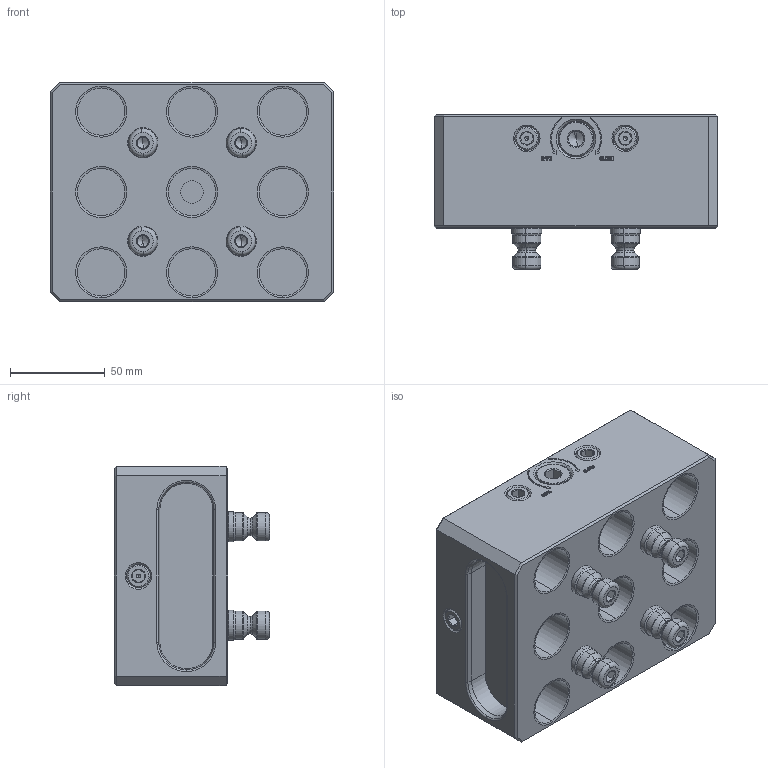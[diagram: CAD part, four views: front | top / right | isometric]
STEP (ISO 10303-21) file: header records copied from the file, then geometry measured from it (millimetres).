
FILE_DESCRIPTION((''),'2;1');
FILE_NAME('TI_WH_52ZPS_RD160NP001_ASM','2026-06-10T12:38:13',('Admin'),(''),'CREO PARAMETRIC BY PTC INC, 2025010','CREO PARAMETRIC BY PTC INC, 2025010','');
FILE_SCHEMA(('CONFIG_CONTROL_DESIGN'));
Products named in the file (23): F000-24770A_52MM_-0001; F000-24770A_52MM_-0002; B40101-00003_-74180001; F000-24770A_52MM_-0003; F000-24770A_52MM_-0004; B11500-00184_O--150001; B11500-00184_O--180001; B40101-00003_-21290001; F000-24770A_52MM_-0005; F000-24770A_52MM_-0006; F009-0010923B_-1-S0001; F000-24770A_52MM_-0007; B40101-00003_-33660001; B11500-00184_O--340001; _70001; 200; B40101-00003_-44580001; F000-24770A_52MM_-0008; B11500-00184_O--500001; B40101-00003_-55470001; B40101-00003_-59220001; NT-S52P150V2_ASM; TI_WH_52ZPS_RD160NP001_ASM
Assembly tree (22 placements, depth 3):
  TI_WH_52ZPS_RD160NP001_ASM
    NT-S52P150V2_ASM
      F000-24770A_52MM_-0001
      F000-24770A_52MM_-0002
      B40101-00003_-74180001
      F000-24770A_52MM_-0003
      F000-24770A_52MM_-0004
      B11500-00184_O--150001
      B11500-00184_O--180001
      B40101-00003_-21290001
      F000-24770A_52MM_-0005
      F000-24770A_52MM_-0006
      F009-0010923B_-1-S0001
      F000-24770A_52MM_-0007
      B40101-00003_-33660001
      B11500-00184_O--340001
      _70001
      200
      B40101-00003_-44580001
      F000-24770A_52MM_-0008
      B11500-00184_O--500001
      B40101-00003_-55470001
      B40101-00003_-59220001
Bounding box: 150 x 82 x 116 mm (x, y, z)
Volume: 832450.4 mm3; surface area: 121851.5 mm2
Topology: 21 solids, 21 shells, 1038 faces, 2399 edges, 1435 vertices
Faces by surface type: plane 331, cylinder 304, cone 276, torus 72, extrusion 40, bspline 15
Entity records: 86480 total; most frequent: CARTESIAN_POINT 63134, DIRECTION 4763, ORIENTED_EDGE 4706, EDGE_CURVE 2353, AXIS2_PLACEMENT_3D 1803, VERTEX_POINT 1435, VECTOR 1157, EDGE_LOOP 1126
